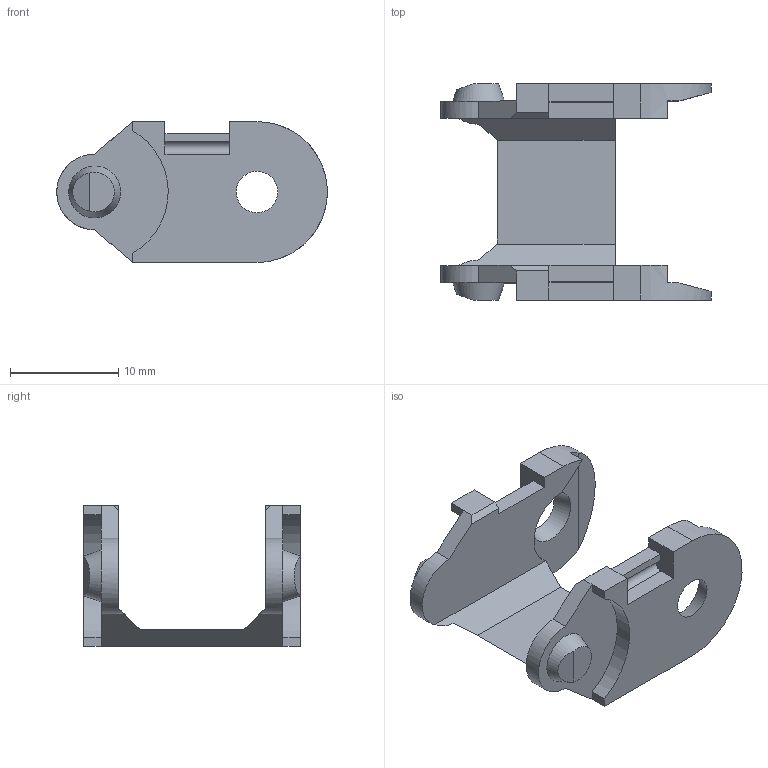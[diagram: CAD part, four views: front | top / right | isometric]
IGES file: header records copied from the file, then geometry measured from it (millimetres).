
Global section: file name: CableChain_BaseUnit v1; native system: unknown; preprocessor: unknown; author: unknown; organization: unknown; date: 20241212.222105; units: millimetre
Bounding box: 24.99 x 20 x 13 mm (x, y, z)
Volume: 1318.5 mm3; surface area: 1748.8 mm2
Topology: 1 solids, 1 shells, 58 faces, 158 edges, 104 vertices
Faces by surface type: bspline 58
